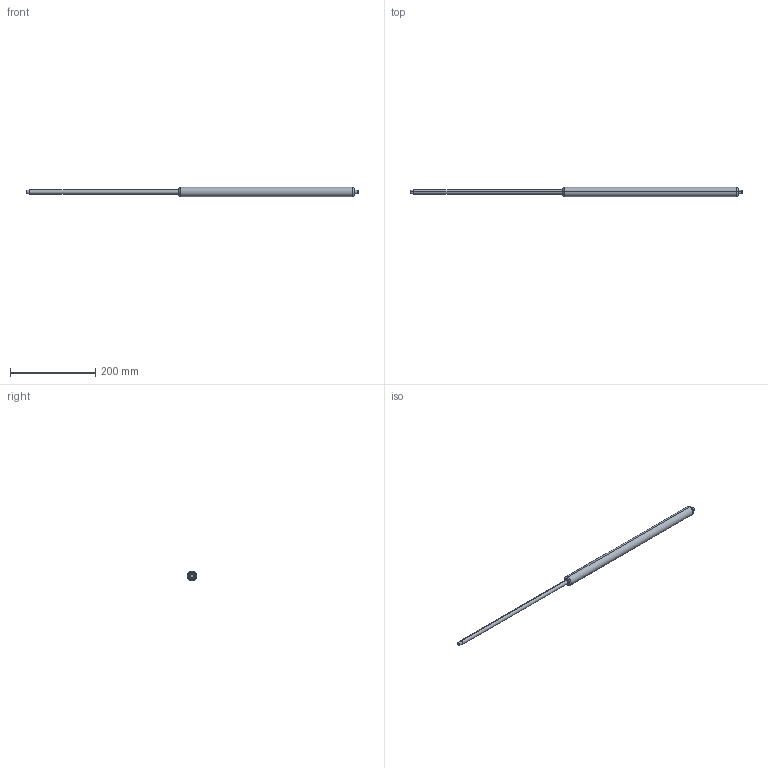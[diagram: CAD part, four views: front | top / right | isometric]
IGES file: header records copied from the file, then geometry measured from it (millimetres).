
Start section: SolidWorks IGES file using analytic representation for surfaces
Bounding box: 781 x 22 x 22 mm (x, y, z)
Surface area: 40533.1 mm2 (no closed solid volume)
Topology: 0 solids, 0 shells, 25 faces, 336 edges, 336 vertices
Faces by surface type: revolution 16, bspline 9
